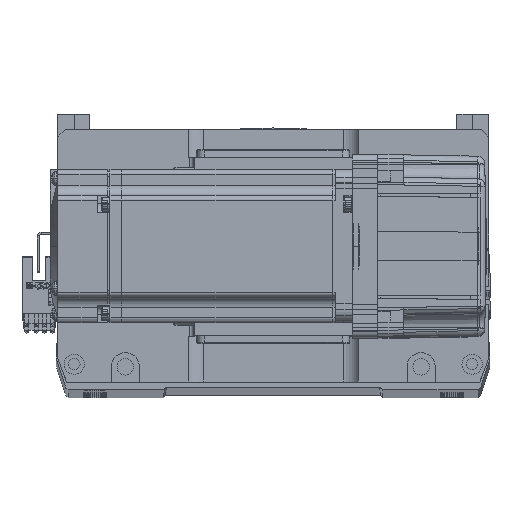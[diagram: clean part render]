
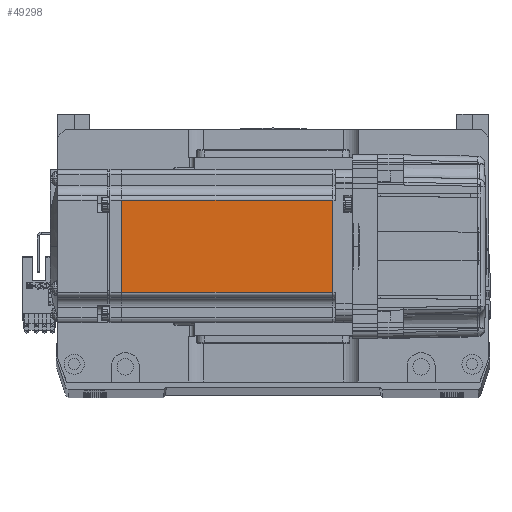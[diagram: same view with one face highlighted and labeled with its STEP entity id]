
A CAD part, top view. The second image highlights one B-rep face of the part: STEP entity #49298.
In plain terms, the highlighted planar face has unit normal (0, 0, 1).
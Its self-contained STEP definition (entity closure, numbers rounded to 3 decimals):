
#784 = CARTESIAN_POINT ( 'NONE',  ( -6.5, -25., 30. ) ) ;
#3172 = LINE ( 'NONE', #59934, #39998 ) ;
#3236 = EDGE_CURVE ( 'NONE', #40645, #29764, #40607, .T. ) ;
#3726 = ORIENTED_EDGE ( 'NONE', *, *, #3236, .T. ) ;
#4193 = ORIENTED_EDGE ( 'NONE', *, *, #57266, .F. ) ;
#8431 = EDGE_CURVE ( 'NONE', #52079, #29764, #29127, .T. ) ;
#9296 = FACE_OUTER_BOUND ( 'NONE', #11461, .T. ) ;
#11085 = DIRECTION ( 'NONE',  ( 1., 0., 0. ) ) ;
#11461 = EDGE_LOOP ( 'NONE', ( #4193, #41550, #3726, #38610 ) ) ;
#12817 = DIRECTION ( 'NONE',  ( 0., -1., 0. ) ) ;
#15036 = VECTOR ( 'NONE', #12817, 1000. ) ;
#15620 = VECTOR ( 'NONE', #30235, 1000. ) ;
#19868 = CARTESIAN_POINT ( 'NONE',  ( -6.5, 18., 30. ) ) ;
#25147 = DIRECTION ( 'NONE',  ( 0., -1., 0. ) ) ;
#29127 = LINE ( 'NONE', #40569, #15620 ) ;
#29647 = VECTOR ( 'NONE', #55602, 1000. ) ;
#29764 = VERTEX_POINT ( 'NONE', #33424 ) ;
#30235 = DIRECTION ( 'NONE',  ( -1., 0., 0. ) ) ;
#32097 = CARTESIAN_POINT ( 'NONE',  ( -7.75, -18., 30. ) ) ;
#33424 = CARTESIAN_POINT ( 'NONE',  ( -90.45, -18., 30. ) ) ;
#33802 = VERTEX_POINT ( 'NONE', #39951 ) ;
#36711 = DIRECTION ( 'NONE',  ( 0., 0., 1. ) ) ;
#38610 = ORIENTED_EDGE ( 'NONE', *, *, #8431, .F. ) ;
#39951 = CARTESIAN_POINT ( 'NONE',  ( -7.75, 18., 30. ) ) ;
#39998 = VECTOR ( 'NONE', #25147, 1000. ) ;
#40569 = CARTESIAN_POINT ( 'NONE',  ( -6.5, -18., 30. ) ) ;
#40607 = LINE ( 'NONE', #43432, #15036 ) ;
#40645 = VERTEX_POINT ( 'NONE', #56793 ) ;
#41550 = ORIENTED_EDGE ( 'NONE', *, *, #51890, .T. ) ;
#43306 = LINE ( 'NONE', #19868, #29647 ) ;
#43432 = CARTESIAN_POINT ( 'NONE',  ( -90.45, 0., 30. ) ) ;
#47272 = AXIS2_PLACEMENT_3D ( 'NONE', #784, #36711, #11085 ) ;
#49298 = ADVANCED_FACE ( 'NONE', ( #9296 ), #61941, .T. ) ;
#51890 = EDGE_CURVE ( 'NONE', #33802, #40645, #43306, .T. ) ;
#52079 = VERTEX_POINT ( 'NONE', #32097 ) ;
#55602 = DIRECTION ( 'NONE',  ( -1., 0., 0. ) ) ;
#56793 = CARTESIAN_POINT ( 'NONE',  ( -90.45, 18., 30. ) ) ;
#57266 = EDGE_CURVE ( 'NONE', #33802, #52079, #3172, .T. ) ;
#59934 = CARTESIAN_POINT ( 'NONE',  ( -7.75, 0., 30. ) ) ;
#61941 = PLANE ( 'NONE',  #47272 ) ;
